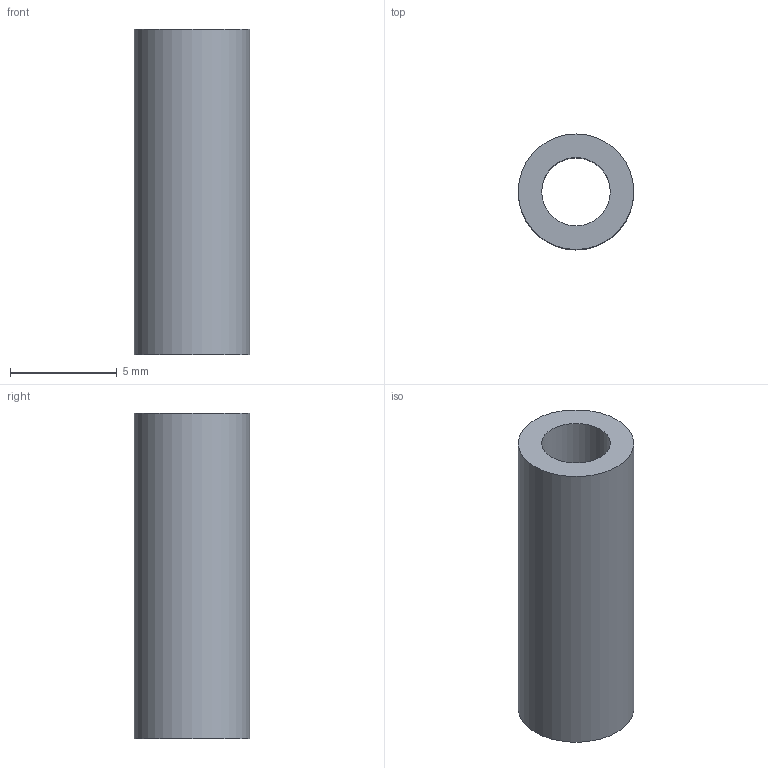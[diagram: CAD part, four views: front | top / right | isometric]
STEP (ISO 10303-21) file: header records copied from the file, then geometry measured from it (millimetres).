
FILE_DESCRIPTION(('Open CASCADE Model'),'2;1');
FILE_NAME('Open CASCADE Shape Model','2026-10-05T13:03:07',('Author'),( 'Open CASCADE'),'Open CASCADE STEP processor 7.9','Open CASCADE 7.9' ,'Unknown');
FILE_SCHEMA(('AUTOMOTIVE_DESIGN { 1 0 10303 214 1 1 1 1 }'));
Length unit declared in the file: millimetre
Products named in the file (1): Open CASCADE STEP translator 7.9 14
Bounding box: 5.4 x 5.4 x 15.2 mm (x, y, z)
Volume: 225.9 mm3; surface area: 440.4 mm2
Topology: 1 solids, 1 shells, 4 faces, 6 edges, 4 vertices
Faces by surface type: cylinder 2, plane 2
Full cylindrical faces by diameter (mm): 3.2 x1, 5.4 x1
Entity records: 186 total; most frequent: DIRECTION 32, CARTESIAN_POINT 27, ORIENTED_EDGE 12, PCURVE 12, DEFINITIONAL_REPRESENTATION 12, LINE 10, VECTOR 10, AXIS2_PLACEMENT_3D 9
